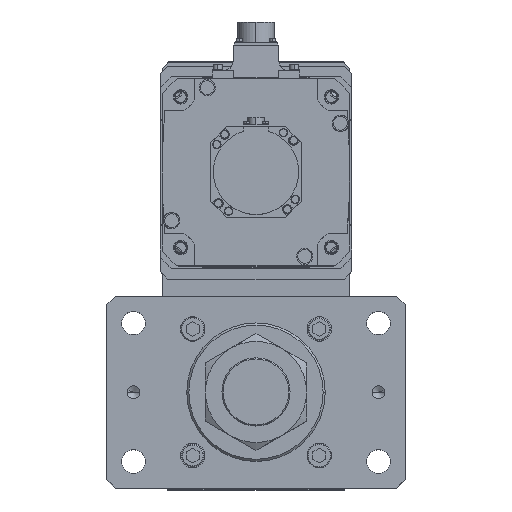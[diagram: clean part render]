
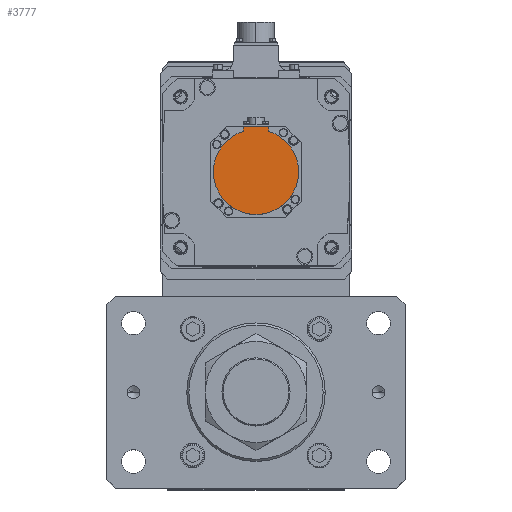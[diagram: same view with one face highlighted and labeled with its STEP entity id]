
A CAD part, top view. The second image highlights one B-rep face of the part: STEP entity #3777.
In plain terms, the highlighted planar face has unit normal (0, 0, 1) as drawn and (0, 0, -1) by its records, which use the part's own axes.
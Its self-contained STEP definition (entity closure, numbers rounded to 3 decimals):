
#2693 = DIRECTION ( 'NONE',  ( 0., 0., 1. ) ) ;
#2871 = EDGE_CURVE ( 'NONE', #17887, #22643, #19040, .T. ) ;
#3777 = ADVANCED_FACE ( 'NONE', ( #20856 ), #15912, .F. ) ;
#3813 = DIRECTION ( 'NONE',  ( 1., 0., 0. ) ) ;
#4067 = VECTOR ( 'NONE', #23500, 1000. ) ;
#7042 = CARTESIAN_POINT ( 'NONE',  ( 40., 0., -178.5 ) ) ;
#7092 = CARTESIAN_POINT ( 'NONE',  ( 0., 0., -178.5 ) ) ;
#7889 = CARTESIAN_POINT ( 'NONE',  ( 12., -1.249, -178.5 ) ) ;
#10220 = AXIS2_PLACEMENT_3D ( 'NONE', #7092, #11683, #51760 ) ;
#10389 = EDGE_CURVE ( 'NONE', #25179, #50363, #30971, .T. ) ;
#11419 = DIRECTION ( 'NONE',  ( 1., 0., 0. ) ) ;
#11468 = CARTESIAN_POINT ( 'NONE',  ( 0., -42.5, -178.5 ) ) ;
#11683 = DIRECTION ( 'NONE',  ( 0., 0., 1. ) ) ;
#12450 = VECTOR ( 'NONE', #27456, 1000. ) ;
#12600 = CIRCLE ( 'NONE', #39046, 40. ) ;
#14236 = CIRCLE ( 'NONE', #10220, 40. ) ;
#15912 = PLANE ( 'NONE',  #31733 ) ;
#17190 = CARTESIAN_POINT ( 'NONE',  ( 0., 0., -178.5 ) ) ;
#17724 = DIRECTION ( 'NONE',  ( 1., 0., 0. ) ) ;
#17887 = VERTEX_POINT ( 'NONE', #49399 ) ;
#19040 = CIRCLE ( 'NONE', #35755, 40. ) ;
#20185 = VECTOR ( 'NONE', #23192, 1000. ) ;
#20380 = EDGE_LOOP ( 'NONE', ( #41812, #32700, #27149, #46874, #48789, #46942 ) ) ;
#20856 = FACE_OUTER_BOUND ( 'NONE', #20380, .T. ) ;
#22643 = VERTEX_POINT ( 'NONE', #36741 ) ;
#23014 = CARTESIAN_POINT ( 'NONE',  ( -12., -42.5, -178.5 ) ) ;
#23192 = DIRECTION ( 'NONE',  ( -1., 0., 0. ) ) ;
#23500 = DIRECTION ( 'NONE',  ( 0., 1., 0. ) ) ;
#23924 = EDGE_CURVE ( 'NONE', #50363, #22643, #49802, .T. ) ;
#25179 = VERTEX_POINT ( 'NONE', #44973 ) ;
#25330 = DIRECTION ( 'NONE',  ( 0., 0., 1. ) ) ;
#27149 = ORIENTED_EDGE ( 'NONE', *, *, #34609, .F. ) ;
#27281 = VERTEX_POINT ( 'NONE', #7042 ) ;
#27456 = DIRECTION ( 'NONE',  ( 0., 1., 0. ) ) ;
#30971 = LINE ( 'NONE', #11468, #20185 ) ;
#31733 = AXIS2_PLACEMENT_3D ( 'NONE', #31882, #48206, #3813 ) ;
#31882 = CARTESIAN_POINT ( 'NONE',  ( 0., -1.249, -178.5 ) ) ;
#32700 = ORIENTED_EDGE ( 'NONE', *, *, #2871, .F. ) ;
#34609 = EDGE_CURVE ( 'NONE', #27281, #17887, #12600, .T. ) ;
#35755 = AXIS2_PLACEMENT_3D ( 'NONE', #47778, #2693, #11419 ) ;
#36651 = EDGE_CURVE ( 'NONE', #25179, #43685, #44844, .T. ) ;
#36741 = CARTESIAN_POINT ( 'NONE',  ( -12., -38.158, -178.5 ) ) ;
#39046 = AXIS2_PLACEMENT_3D ( 'NONE', #17190, #25330, #17724 ) ;
#41812 = ORIENTED_EDGE ( 'NONE', *, *, #23924, .T. ) ;
#42850 = CARTESIAN_POINT ( 'NONE',  ( 12., -38.158, -178.5 ) ) ;
#43685 = VERTEX_POINT ( 'NONE', #42850 ) ;
#44059 = CARTESIAN_POINT ( 'NONE',  ( -12., -40.329, -178.5 ) ) ;
#44844 = LINE ( 'NONE', #7889, #12450 ) ;
#44973 = CARTESIAN_POINT ( 'NONE',  ( 12., -42.5, -178.5 ) ) ;
#45423 = EDGE_CURVE ( 'NONE', #43685, #27281, #14236, .T. ) ;
#46874 = ORIENTED_EDGE ( 'NONE', *, *, #45423, .F. ) ;
#46942 = ORIENTED_EDGE ( 'NONE', *, *, #10389, .T. ) ;
#47778 = CARTESIAN_POINT ( 'NONE',  ( 0., 0., -178.5 ) ) ;
#48206 = DIRECTION ( 'NONE',  ( 0., 0., 1. ) ) ;
#48789 = ORIENTED_EDGE ( 'NONE', *, *, #36651, .F. ) ;
#49399 = CARTESIAN_POINT ( 'NONE',  ( -40., 0., -178.5 ) ) ;
#49802 = LINE ( 'NONE', #44059, #4067 ) ;
#50363 = VERTEX_POINT ( 'NONE', #23014 ) ;
#51760 = DIRECTION ( 'NONE',  ( 1., 0., 0. ) ) ;
